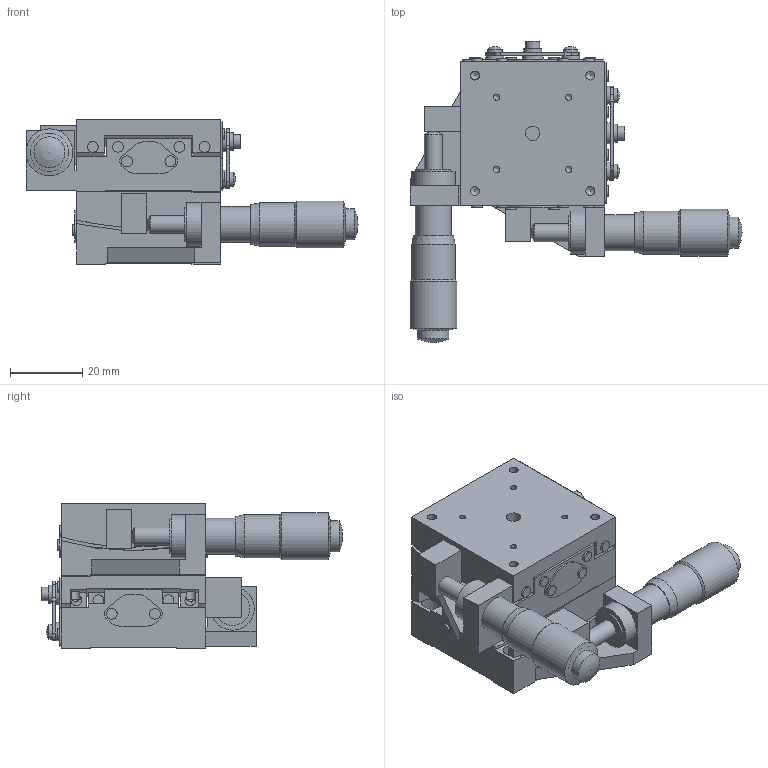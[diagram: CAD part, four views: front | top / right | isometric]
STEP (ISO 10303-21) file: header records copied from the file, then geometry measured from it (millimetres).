
FILE_DESCRIPTION( ( 'STEP AP203' ), '1' );
FILE_NAME( 'C:/Documents and Settings/09371/デスクトップ/CAD-ORG-STEP-DATA-3D簡素化依頼/3D_DATA_STEP/B59-40W.step', '2007-02-09T05:36:23', ( ' ' ), ( ' ' ), 'XStep 1.0', ' ', ' ' );
FILE_SCHEMA( ( 'CONFIG_CONTROL_DESIGN' ) );
Length unit declared in the file: millimetre
Products named in the file (6): 1; 2; 3; 4; 5; 6
Bounding box: 92 x 83.5 x 40 mm (x, y, z)
Volume: 72500.3 mm3; surface area: 35675 mm2
Topology: 6 solids, 6 shells, 455 faces, 1157 edges, 763 vertices
Faces by surface type: plane 224, cylinder 205, cone 18, sphere 8
Full cylindrical faces by diameter (mm): 1.6 x8, 1.75 x8, 2 x2, 2.5 x16, 3 x28, 3.5 x8, 3.8 x2, 4 x8, 5 x10, 5.8 x2, 6 x8, 8.6 x2, 9.5 x2, 10 x2, 10.5 x2, 12 x4, 13 x2
Entity records: 13765 total; most frequent: CARTESIAN_POINT 3166, DIRECTION 2213, ORIENTED_EDGE 1880, EDGE_CURVE 940, AXIS2_PLACEMENT_3D 855, VERTEX_POINT 698, EDGE_LOOP 692, FACE_OUTER_BOUND 565
